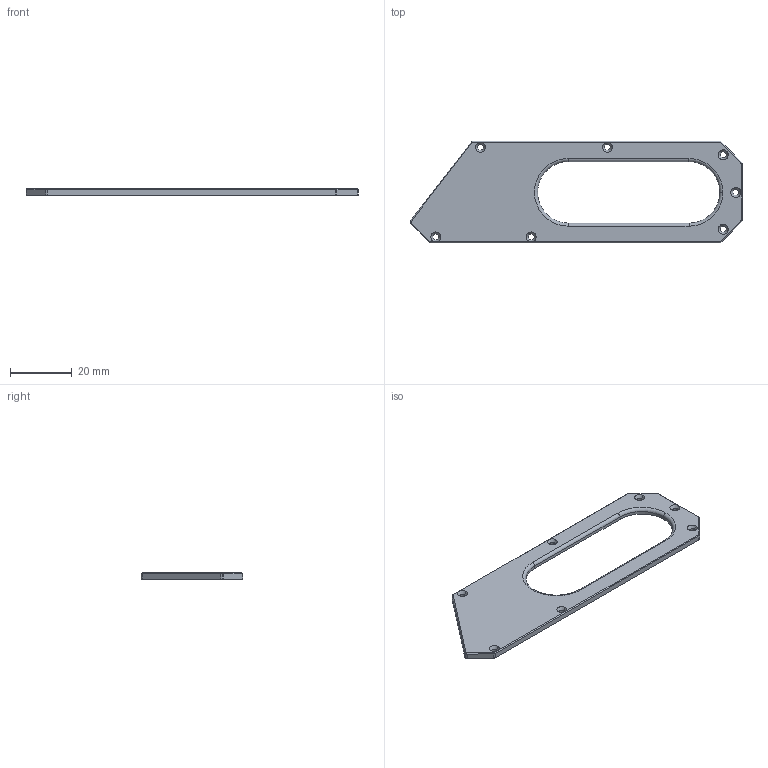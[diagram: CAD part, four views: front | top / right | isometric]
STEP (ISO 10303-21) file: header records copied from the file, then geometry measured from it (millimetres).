
FILE_DESCRIPTION (( 'STEP AP203' ), '1' );
FILE_NAME ('MakerKnifeFrontPlate.STEP', '2018-11-06T16:05:34', ( '' ), ( '' ), 'SwSTEP 2.0', 'SolidWorks 2017', '' );
FILE_SCHEMA (( 'CONFIG_CONTROL_DESIGN' ));
Length unit declared in the file: millimetre
Products named in the file (1): MakerKnifeFrontPlate
Bounding box: 107.94 x 33.1 x 2 mm (x, y, z)
Volume: 4176.2 mm3; surface area: 5003 mm2
Topology: 1 solids, 1 shells, 70 faces, 170 edges, 102 vertices
Faces by surface type: cylinder 27, cone 22, plane 18, torus 3
Entity records: 2151 total; most frequent: DIRECTION 392, CARTESIAN_POINT 343, ORIENTED_EDGE 340, EDGE_CURVE 170, AXIS2_PLACEMENT_3D 151, VERTEX_POINT 102, LINE 90, VECTOR 90
